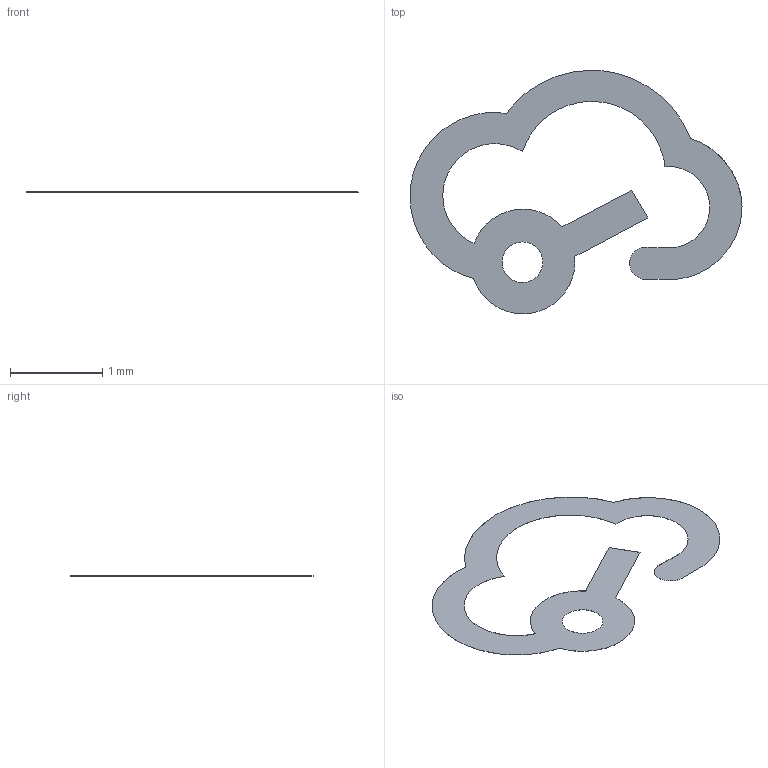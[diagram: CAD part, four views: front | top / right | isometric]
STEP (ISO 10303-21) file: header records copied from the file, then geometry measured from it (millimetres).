
FILE_DESCRIPTION(/* description */ ('STEP AP242 Edition 2','CAx-IF Rec.Pracs.---Representation and Presentation of Product Manufacturing Information (PMI)---4.0---2014-10-13','CAx-IF Rec.Pracs.---3D Tessellated Geometry---0.4---2014-09-14','2;1','CAx-IF Rec.Pracs.---User Defined Attributes---1.5---2016-08-15'),/* implementation_level */ '2;1');
FILE_NAME(/* name */ 'Assembly 1 - I2CLCD16X2~MODULE-TH_LCM1602K~nxQB (12)',/* time_stamp */ '2026-04-02T09:55:14Z',/* author */ (''),/* organization */ (''),/* preprocessor_version */ 'ST-DEVELOPER v20',/* originating_system */ 'ONSHAPE BY PTC INC, 1.212',/* authorisation */ ' ');
FILE_SCHEMA (('AP242_MANAGED_MODEL_BASED_3D_ENGINEERING_MIM_LF { 1 0 10303 442 3 1 4 }'));
Length unit declared in the file: metre
Products named in the file (1): I2CLCD16X2~MODULE-TH_LCM1602K~nxQB
Bounding box: 3.6 x 2.64 x 0 mm (x, y, z)
Volume: 0 mm3; surface area: 7 mm2
Topology: 1 solids, 1 shells, 37 faces, 103 edges, 68 vertices
Faces by surface type: bspline 27, plane 9, cylinder 1
Entity records: 1631 total; most frequent: CARTESIAN_POINT 586, ORIENTED_EDGE 206, EDGE_CURVE 103, DIRECTION 69, VERTEX_POINT 68, B_SPLINE_CURVE_WITH_KNOTS 56, LINE 47, VECTOR 47
